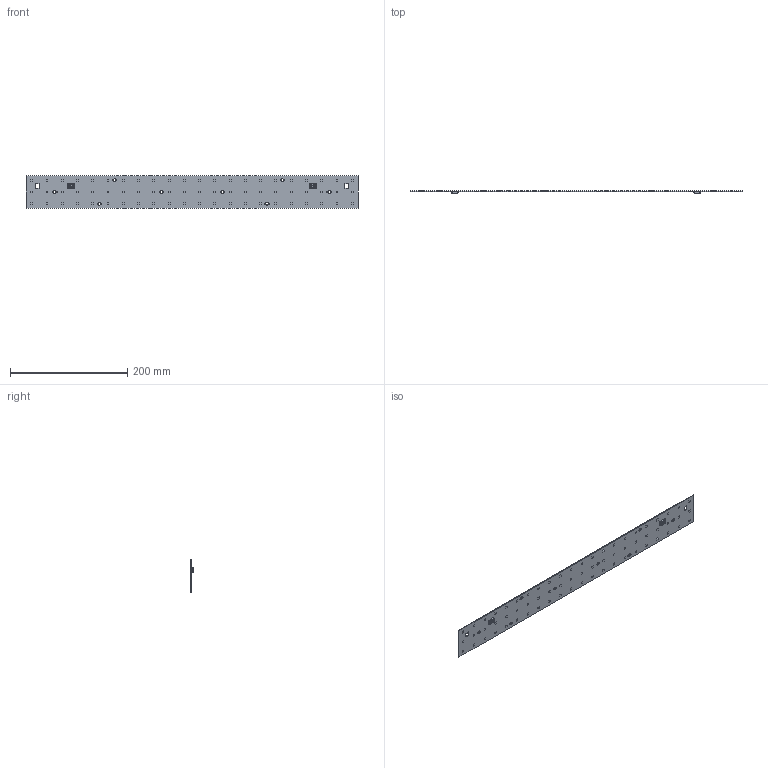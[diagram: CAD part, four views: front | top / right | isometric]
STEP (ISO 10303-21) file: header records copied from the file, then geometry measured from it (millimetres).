
FILE_DESCRIPTION(/* description */ ('Unknown'),/* implementation_level */ '2;1');
FILE_NAME(/* name */ 'RecLED 566x55 4000lm 33V&66V G1 sh-000 2019-11-26',/* time_stamp */ '2019-11-26T12:10:54+01:00',/* author */ ('Unknown'),/* organization */ ('Unknown'),/* preprocessor_version */ 'ST-DEVELOPER v16.7',/* originating_system */ 'DEX',/* authorisation */ $);
FILE_SCHEMA (('AUTOMOTIVE_DESIGN {1 0 10303 214 3 1 1}'));
Length unit declared in the file: millimetre
Products named in the file (1): RecLED 566x55 66x3030 2019-03-262
Bounding box: 566 x 5.05 x 55 mm (x, y, z)
Volume: 50259.1 mm3; surface area: 65274.9 mm2
Topology: 1 solids, 1 shells, 1222 faces, 3136 edges, 1980 vertices
Faces by surface type: plane 694, cylinder 260, bspline 174, cone 52, torus 22, sphere 20
Entity records: 49726 total; most frequent: CARTESIAN_POINT 13231, ORIENTED_EDGE 6196, DIRECTION 5034, EDGE_CURVE 3098, VERTEX_POINT 1970, LINE 1956, VECTOR 1956, AXIS2_PLACEMENT_3D 1539
